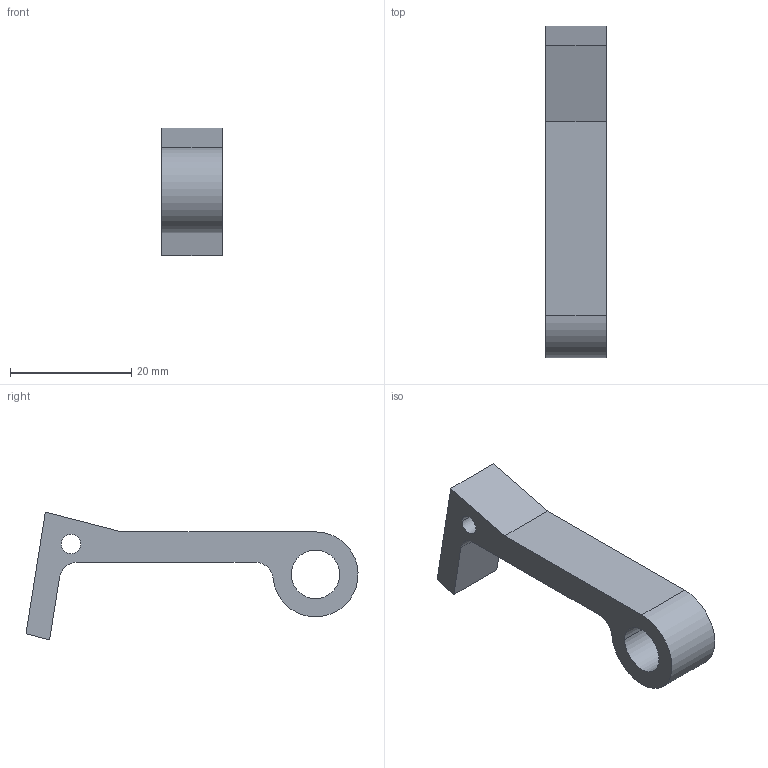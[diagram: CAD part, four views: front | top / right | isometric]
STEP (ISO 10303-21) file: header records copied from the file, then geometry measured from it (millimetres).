
FILE_DESCRIPTION(('CATIA V5 STEP Exchange'),'2;1');
FILE_NAME('C:\Users\user\Desktop\antivol\béta\3D\beta version metal v2\Peine.stp','2016-01-25T22:51:14+00:00',('none'),('none'),'CATIA Version 5 Release 18 GA (IN-10)','CATIA V5 STEP AP203','none');
FILE_SCHEMA(('CONFIG_CONTROL_DESIGN'));
Length unit declared in the file: millimetre
Products named in the file (1): PEINE
Bounding box: 10 x 54.66 x 21.05 mm (x, y, z)
Volume: 3723.6 mm3; surface area: 2594.3 mm2
Topology: 1 solids, 1 shells, 15 faces, 39 edges, 26 vertices
Faces by surface type: plane 8, cylinder 7
Entity records: 493 total; most frequent: CARTESIAN_POINT 79, ORIENTED_EDGE 78, DIRECTION 65, EDGE_CURVE 39, AXIS2_PLACEMENT_3D 28, VERTEX_POINT 26, VECTOR 25, LINE 25
